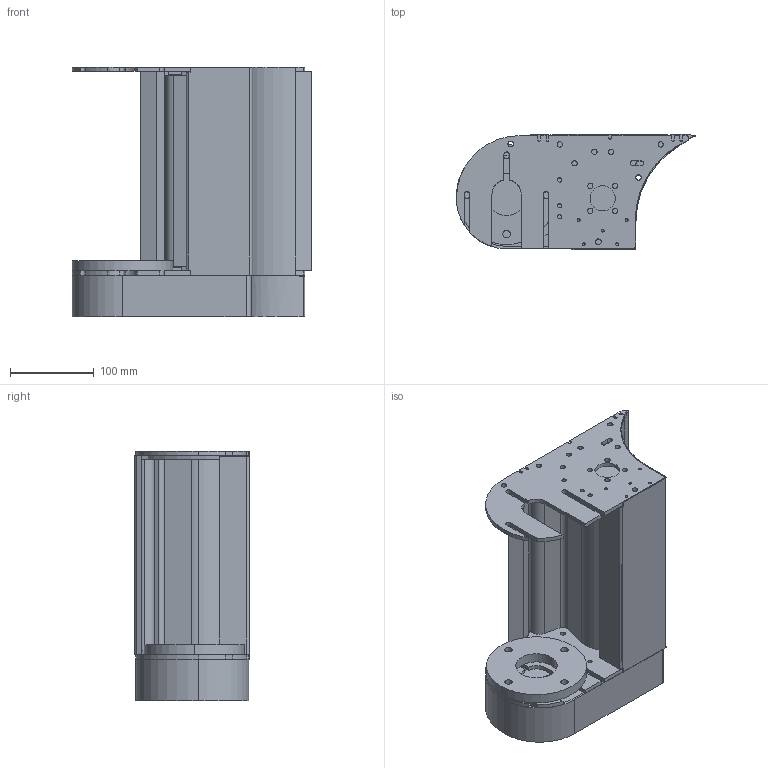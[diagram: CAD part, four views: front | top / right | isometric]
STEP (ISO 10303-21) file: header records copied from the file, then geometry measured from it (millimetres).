
FILE_DESCRIPTION (( 'STEP AP214' ), '1' );
FILE_NAME ('F2 750 TMGM NTB GP.step', '2017-04-05T07:35:33', ( '' ), ( '' ), 'SwSTEP 2.0', 'SolidWorks 2015', '' );
FILE_SCHEMA (( 'AUTOMOTIVE_DESIGN' ));
Length unit declared in the file: millimetre
Products named in the file (1): F2 750 TMGM NTB GP
Bounding box: 286.35 x 137.58 x 299 mm (x, y, z)
Volume: 2890020.9 mm3; surface area: 568313.8 mm2
Topology: 9 solids, 9 shells, 375 faces, 1062 edges, 707 vertices
Faces by surface type: cylinder 202, plane 173
Entity records: 12758 total; most frequent: DIRECTION 2221, CARTESIAN_POINT 2145, ORIENTED_EDGE 2124, EDGE_CURVE 1062, AXIS2_PLACEMENT_3D 783, VERTEX_POINT 707, LINE 655, VECTOR 655
